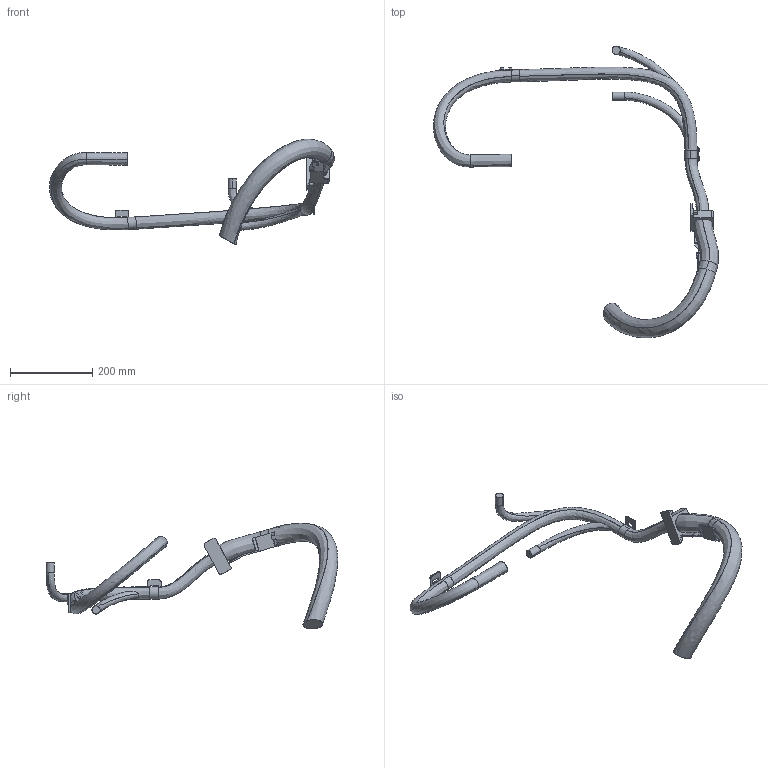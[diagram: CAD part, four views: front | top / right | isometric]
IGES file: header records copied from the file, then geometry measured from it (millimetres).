
Start section: SolidWorks IGES file using analytic representation for surfaces
Global section: file name: C:\Data\SAP_DOC\IRB6740_lightweight\6750S\IRB 6750S ASM\IRB6750S-LID-SW_185kg-390_OC_01_SW_J\IRB6750S-LID-SW_185kg-390_OC_01_IGES_J\IRB6750S-ALL-OC_00_LINK03m_CABLE.igs; native system: SolidWorks 2024; preprocessor: SolidWorks 2024; author: SEJAOLS6; date: 260513.073944; units: millimetre
Bounding box: 695.19 x 711.26 x 257.97 mm (x, y, z)
Surface area: 250372.9 mm2 (no closed solid volume)
Topology: 0 solids, 0 shells, 189 faces, 2709 edges, 2709 vertices
Faces by surface type: bspline 115, revolution 74
